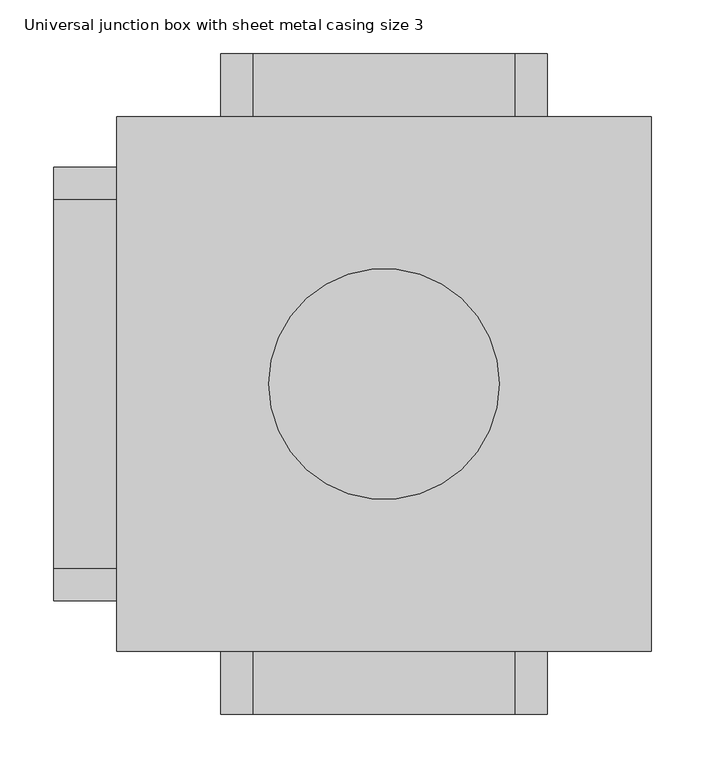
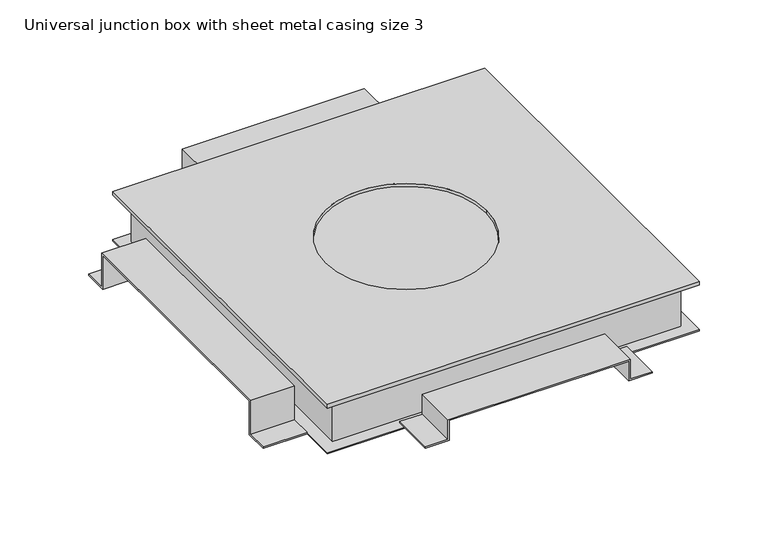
"""IFC4 building model written with IfcOpenShell, lengths in millimetres: cable carrier fitting geometry, Electrical-Installations_Hager_Universal-Junction-Box-With-Sheet-Metal-Casing-Size-3 : Universal junction box with sheet metal casing size 3."""

from ifc_helpers import new_model, si_unit, frame, origin, place, context, project, spatial, polyline, circle_curve, outline, extrude, faceted_brep, source, transform, mapped, element, save
from ifc_brep_helpers import plane_surface, revolved_surface, advanced_brep


def universal_junction_box_with_sheet_metal_casing_size_3_df0c8797(model_context):
    return source(origin(), model_context, "Body", "SolidModel", [
        extrude(outline(polyline([(-24.0, -152.0), (-24.0, -120.0), (24.0, -120.0), (24.0, 120.0), (-24.0, 120.0), (-24.0, 152.0), (-22.0, 152.0), (-22.0, 122.0), (26.0, 122.0), (26.0, -122.0), (-22.0, -122.0), (-22.0, -152.0), (-24.0, -152.0)])), frame((0.0, 249.0, 0.0), z_axis=(0.0, 1.0, 0.0), x_axis=(0.0, 0.0, 1.0)), (0.0, 0.0, 1.0), 59.0),
        extrude(outline(polyline([(-202.0, -24.0), (-202.0, -22.0), (-172.0, -22.0), (-172.0, 26.0), (172.0, 26.0), (172.0, -22.0), (202.0, -22.0), (202.0, -24.0), (170.0, -24.0), (170.0, 24.0), (-170.0, 24.0), (-170.0, -24.0), (-202.0, -24.0)])), frame((-308.0, 0.0, 0.0), z_axis=(1.0, 0.0, 0.0), x_axis=(0.0, 1.0, 0.0)), (0.0, 0.0, 1.0), 59.0),
        extrude(outline(polyline([(-14.0, -152.0), (-14.0, -120.0), (14.0, -120.0), (14.0, 120.0), (-14.0, 120.0), (-14.0, 152.0), (-12.0, 152.0), (-12.0, 122.0), (16.0, 122.0), (16.0, -122.0), (-12.0, -122.0), (-12.0, -152.0), (-14.0, -152.0)])), frame((0.0, -308.0, 0.0), z_axis=(0.0, 1.0, 0.0), x_axis=(0.0, 0.0, 1.0)), (0.0, 0.0, 1.0), 59.0),
        advanced_brep(
        [(-249.0, -249.0, 46.0), (249.0, -249.0, 46.0), (249.0, 249.0, 46.0), (-249.0, 249.0, 46.0), (-107.5, 0.0, 46.0), (107.5, 0.0, 46.0), (-249.0, -249.0, 41.0), (-249.0, 249.0, 41.0), (249.0, 249.0, 41.0), (249.0, -249.0, 41.0), (227.0, 227.0, 41.0), (-227.0, 227.0, 41.0), (-227.0, -227.0, 41.0), (227.0, -227.0, 41.0), (-107.5, 0.0, 41.7820613), (107.5, 0.0, 41.7820613), (227.0, 227.0, 41.7820613), (227.0, -227.0, 41.7820613), (-227.0, -227.0, 41.7820613), (-227.0, 227.0, 41.7820613)],
        [
            (0, 1),
            (1, 2),
            (2, 3),
            (3, 0),
            (4, 5, circle_curve(frame((0.0, 0.0, 46.0), z_axis=(0.0, 0.0, -1.0), x_axis=(1.0, 0.0, 0.0)), 107.5)),
            (5, 4, circle_curve(frame((0.0, 0.0, 46.0), z_axis=(0.0, 0.0, -1.0), x_axis=(1.0, 0.0, 0.0)), 107.5)),
            (6, 7),
            (7, 8),
            (8, 9),
            (9, 6),
            (10, 11),
            (11, 12),
            (12, 13),
            (13, 10),
            (0, 6),
            (9, 1),
            (8, 2),
            (7, 3),
            (4, 14),
            (14, 15, circle_curve(frame((0.0, 0.0, 41.7820613), z_axis=(0.0, 0.0, -1.0), x_axis=(1.0, 0.0, 0.0)), 107.5)),
            (15, 5),
            (15, 14, circle_curve(frame((0.0, 0.0, 41.7820613), z_axis=(0.0, 0.0, -1.0), x_axis=(1.0, 0.0, 0.0)), 107.5)),
            (16, 17),
            (17, 18),
            (18, 19),
            (19, 16),
            (19, 11),
            (10, 16),
            (18, 12),
            (17, 13),
        ],
        [
            plane_surface(frame((-249.0, -249.0, 46.0), z_axis=(0.0, 0.0, 1.0), x_axis=(1.0, 0.0, 0.0))),
            plane_surface(frame((-249.0, -249.0, 41.0), z_axis=(0.0, 0.0, -1.0), x_axis=(-1.0, 0.0, 0.0))),
            plane_surface(frame((-249.0, -249.0, 46.0), z_axis=(0.0, -1.0, 0.0), x_axis=(0.0, 0.0, -1.0))),
            plane_surface(frame((249.0, -249.0, 46.0), z_axis=(1.0, 0.0, 0.0), x_axis=(0.0, 0.0, -1.0))),
            plane_surface(frame((249.0, 249.0, 46.0), z_axis=(0.0, 1.0, 0.0), x_axis=(0.0, 0.0, -1.0))),
            plane_surface(frame((-249.0, 249.0, 46.0), z_axis=(-1.0, 0.0, 0.0), x_axis=(0.0, 0.0, -1.0))),
            revolved_surface(polyline([(107.5, 0.0, 41.7820613), (107.5, 0.0, 46.0)]), (0.0, 0.0, 0.0), (0.0, 0.0, -1.0)),
            plane_surface(frame((-227.0, 227.0, 41.7820613), z_axis=(0.0, 0.0, -1.0), x_axis=(-1.0, 0.0, 0.0))),
            plane_surface(frame((227.0, 227.0, 41.7820613), z_axis=(0.0, -1.0, 0.0), x_axis=(0.0, 0.0, -1.0))),
            plane_surface(frame((-227.0, 227.0, 41.7820613), z_axis=(1.0, 0.0, 0.0), x_axis=(0.0, 0.0, -1.0))),
            plane_surface(frame((-227.0, -227.0, 41.7820613), z_axis=(0.0, 1.0, 0.0), x_axis=(0.0, 0.0, -1.0))),
            plane_surface(frame((227.0, -227.0, 41.7820613), z_axis=(-1.0, 0.0, 0.0), x_axis=(0.0, 0.0, -1.0))),
        ],
        [
            (0, [[1, 2, 3, 4], [5, 6]]),
            (1, [[7, 8, 9, 10], [11, 12, 13, 14]]),
            (2, [[-1, 15, -10, 16]]),
            (3, [[-2, -16, -9, 17]]),
            (4, [[-3, -17, -8, 18]]),
            (5, [[-4, -18, -7, -15]]),
            (6, [[-5, 19, 20, 21]]),
            (6, [[-6, -21, 22, -19]]),
            (7, [[23, 24, 25, 26], [-20, -22]]),
            (8, [[-26, 27, -11, 28]]),
            (9, [[-25, 29, -12, -27]]),
            (10, [[-24, 30, -13, -29]]),
            (11, [[-23, -28, -14, -30]]),
        ],
    ),
        extrude(outline(polyline([(249.0, 249.0), (249.0, -249.0), (-249.0, -249.0), (-249.0, 249.0), (249.0, 249.0)])), frame((0.0, 0.0, -24.0), z_axis=(0.0, 0.0, 1.0), x_axis=(1.0, 0.0, 0.0)), (0.0, 0.0, 1.0), 2.0),
        faceted_brep([(-233.0, 233.0, 41.0), (-233.0, -233.0, 41.0), (233.0, -233.0, 41.0), (233.0, 233.0, 41.0), (-227.0, 227.0, 41.0), (227.0, 227.0, 41.0), (227.0, -227.0, 41.0), (-227.0, -227.0, 41.0), (-233.0, 233.0, -24.0), (233.0, 233.0, -24.0), (233.0, -233.0, -24.0), (-233.0, -233.0, -24.0), (227.0, 227.0, -16.1362798), (-227.0, 227.0, -16.1362798), (-227.0, -227.0, -16.1362798), (227.0, -227.0, -16.1362798)], [[[0, 1, 2, 3], [4, 5, 6, 7]], [[8, 9, 10, 11]], [[1, 0, 8, 11]], [[2, 1, 11, 10]], [[3, 2, 10, 9]], [[0, 3, 9, 8]], [[12, 13, 14, 15]], [[13, 12, 5, 4]], [[14, 13, 4, 7]], [[15, 14, 7, 6]], [[12, 15, 6, 5]]]),
    ])


if __name__ == "__main__":
    model = new_model("IFC4")
    model_context = context("Model", 3, world=origin())
    ifc_project = project(units=[si_unit("LENGTHUNIT", "METRE", prefix="MILLI")], contexts=[model_context])
    site = spatial("IfcSite", under=ifc_project)
    building = spatial("IfcBuilding", under=site)
    placement = place(None, origin())
    universal_junction_box_with_sheet_metal_casing_size_3_shape = universal_junction_box_with_sheet_metal_casing_size_3_df0c8797(model_context)
    element("IfcCableCarrierFitting", 1, ObjectType="Electrical-Installations_Hager_Universal-Junction-Box-With-Sheet-Metal-Casing-Size-3 : Universal junction box with sheet metal casing size 3", at=placement, inside=building, context=model_context, shape_type="MappedRepresentation", body=[
        mapped(universal_junction_box_with_sheet_metal_casing_size_3_shape, transform((0.0, 0.0, 0.0), x_axis=(1.0, 0.0, 0.0), y_axis=(0.0, 1.0, 0.0), z_axis=(0.0, 0.0, 1.0))),
    ])
    save(model, "model.ifc")
